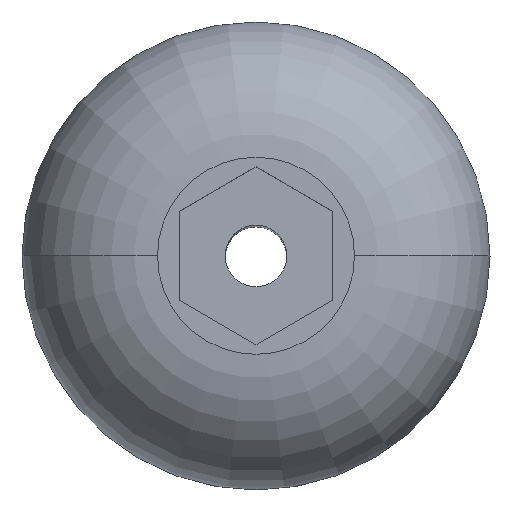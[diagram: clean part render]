
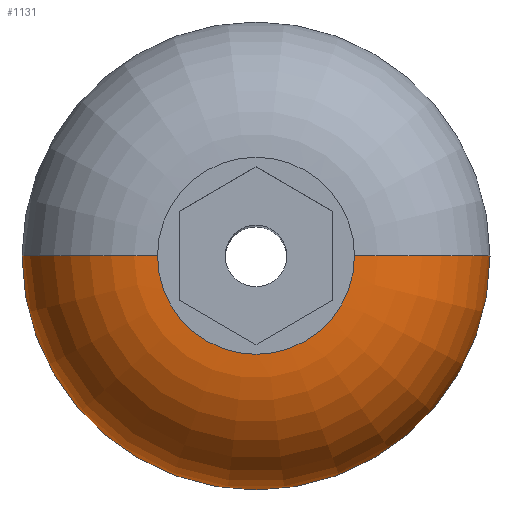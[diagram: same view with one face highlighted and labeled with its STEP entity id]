
A CAD part, top view. The second image highlights one B-rep face of the part: STEP entity #1131.
In plain terms, the highlighted toroidal (fillet/blend) face has major radius 1.6 mm and minor radius 2.2 mm.
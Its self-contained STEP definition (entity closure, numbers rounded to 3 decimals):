
#39 = EDGE_CURVE ( 'NONE', #929, #977, #1886, .T. ) ;
#118 = AXIS2_PLACEMENT_3D ( 'NONE', #1867, #2684, #830 ) ;
#170 = AXIS2_PLACEMENT_3D ( 'NONE', #2186, #2192, #507 ) ;
#269 = FACE_OUTER_BOUND ( 'NONE', #2139, .T. ) ;
#350 = ORIENTED_EDGE ( 'NONE', *, *, #1805, .T. ) ;
#361 = CIRCLE ( 'NONE', #1018, 2.2 ) ;
#507 = DIRECTION ( 'NONE',  ( 1., 0., 0. ) ) ;
#551 = CARTESIAN_POINT ( 'NONE',  ( -1.6, 0., 2.2 ) ) ;
#552 = EDGE_CURVE ( 'NONE', #1703, #977, #1241, .T. ) ;
#663 = EDGE_CURVE ( 'NONE', #1367, #1703, #361, .T. ) ;
#830 = DIRECTION ( 'NONE',  ( 1., 0., 0. ) ) ;
#929 = VERTEX_POINT ( 'NONE', #2540 ) ;
#977 = VERTEX_POINT ( 'NONE', #1271 ) ;
#1018 = AXIS2_PLACEMENT_3D ( 'NONE', #1794, #2655, #2429 ) ;
#1131 = ADVANCED_FACE ( 'NONE', ( #269 ), #2140, .T. ) ;
#1241 = CIRCLE ( 'NONE', #170, 1.6 ) ;
#1271 = CARTESIAN_POINT ( 'NONE',  ( 1.6, 0., 2.2 ) ) ;
#1360 = ORIENTED_EDGE ( 'NONE', *, *, #39, .T. ) ;
#1362 = DIRECTION ( 'NONE',  ( 1., 0., 0. ) ) ;
#1367 = VERTEX_POINT ( 'NONE', #2538 ) ;
#1590 = CARTESIAN_POINT ( 'NONE',  ( 1.6, 0., 0. ) ) ;
#1703 = VERTEX_POINT ( 'NONE', #551 ) ;
#1792 = ORIENTED_EDGE ( 'NONE', *, *, #663, .F. ) ;
#1794 = CARTESIAN_POINT ( 'NONE',  ( -1.6, 0., 0. ) ) ;
#1805 = EDGE_CURVE ( 'NONE', #1367, #929, #2657, .T. ) ;
#1819 = AXIS2_PLACEMENT_3D ( 'NONE', #1590, #2645, #2445 ) ;
#1867 = CARTESIAN_POINT ( 'NONE',  ( 0., 0., 0. ) ) ;
#1886 = CIRCLE ( 'NONE', #1819, 2.2 ) ;
#1992 = CARTESIAN_POINT ( 'NONE',  ( 0., 0., 0. ) ) ;
#2139 = EDGE_LOOP ( 'NONE', ( #1792, #350, #1360, #2557 ) ) ;
#2140 = TOROIDAL_SURFACE ( 'NONE', #2419, 1.6, 2.2 ) ;
#2186 = CARTESIAN_POINT ( 'NONE',  ( 0., 0., 2.2 ) ) ;
#2189 = DIRECTION ( 'NONE',  ( 0., 0., 1. ) ) ;
#2192 = DIRECTION ( 'NONE',  ( 0., 0., 1. ) ) ;
#2419 = AXIS2_PLACEMENT_3D ( 'NONE', #1992, #2189, #1362 ) ;
#2429 = DIRECTION ( 'NONE',  ( -1., 0., 0. ) ) ;
#2445 = DIRECTION ( 'NONE',  ( 0., 0., -1. ) ) ;
#2538 = CARTESIAN_POINT ( 'NONE',  ( -3.8, 0., 0. ) ) ;
#2540 = CARTESIAN_POINT ( 'NONE',  ( 3.8, 0., 0. ) ) ;
#2557 = ORIENTED_EDGE ( 'NONE', *, *, #552, .F. ) ;
#2645 = DIRECTION ( 'NONE',  ( 0., -1., 0. ) ) ;
#2655 = DIRECTION ( 'NONE',  ( 0., 1., 0. ) ) ;
#2657 = CIRCLE ( 'NONE', #118, 3.8 ) ;
#2684 = DIRECTION ( 'NONE',  ( 0., 0., 1. ) ) ;
